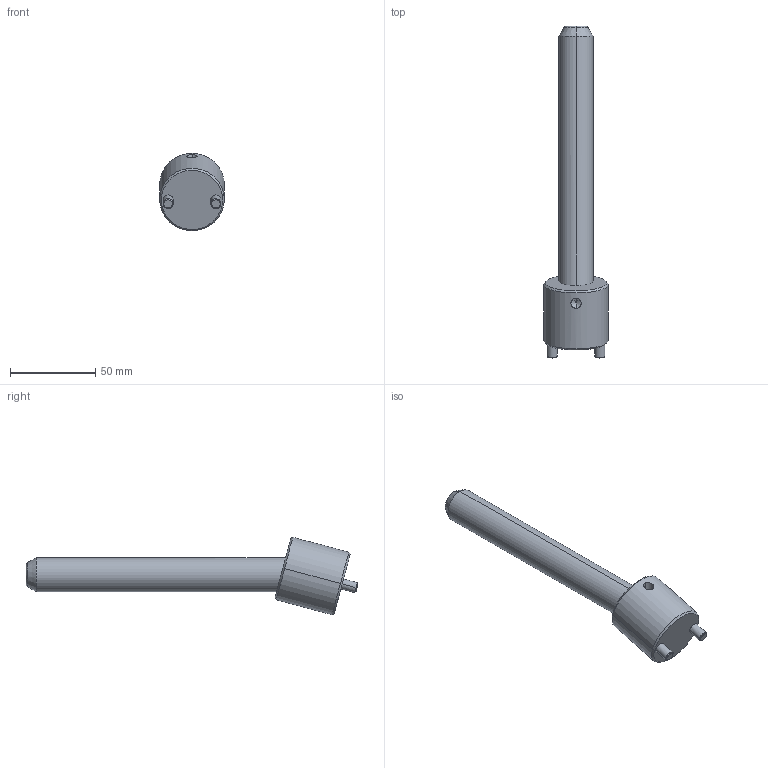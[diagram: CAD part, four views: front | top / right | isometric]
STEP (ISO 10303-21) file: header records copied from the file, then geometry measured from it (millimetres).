
FILE_DESCRIPTION(('CATIA V5 STEP Exchange'),'2;1');
FILE_NAME('C:\Users\Raffaele\Desktop\3D BOLEX\3D FILES CF BOLEX\19-INCLINED ASSEMBLY REF_CI\CI1820150.stp','2019-06-24T07:44:53+00:00',('none'),('none'),'CATIA Version 5 Release 20 GA (IN-10)','CATIA V5 STEP AP203','none');
FILE_SCHEMA(('CONFIG_CONTROL_DESIGN'));
Length unit declared in the file: millimetre
Products named in the file (1): CI1820150
Assembly tree (2 placements, depth 2):
  CI1820150
    #58
    #572
Bounding box: 38 x 195.15 x 45.51 mm (x, y, z)
Volume: 87239.1 mm3; surface area: 20575.1 mm2
Topology: 2 solids, 2 shells, 39 faces, 82 edges, 47 vertices
Faces by surface type: cone 14, cylinder 14, plane 7, torus 4
Entity records: 1494 total; most frequent: CARTESIAN_POINT 635, ORIENTED_EDGE 160, DIRECTION 145, EDGE_CURVE 80, AXIS2_PLACEMENT_3D 72, VERTEX_POINT 47, EDGE_LOOP 43, ADVANCED_FACE 39
